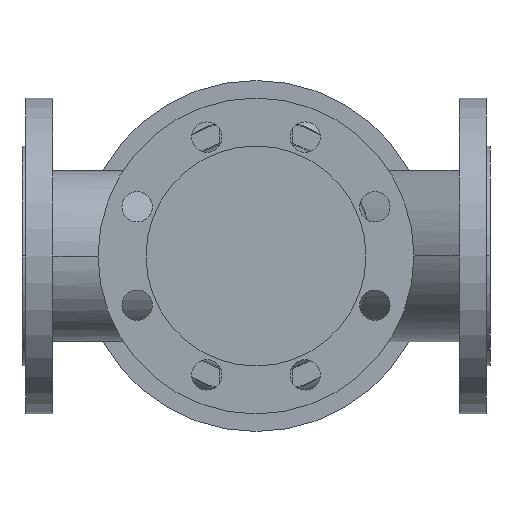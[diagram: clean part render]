
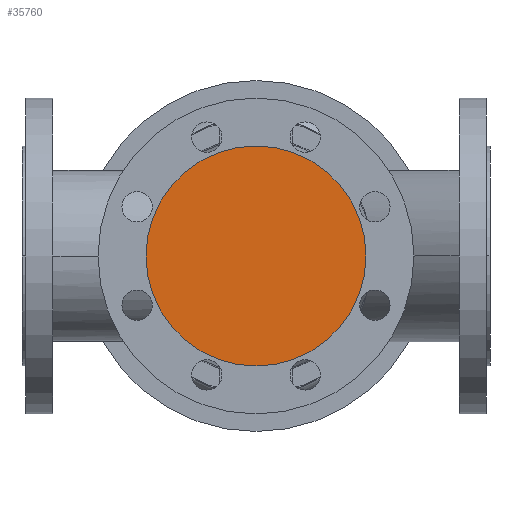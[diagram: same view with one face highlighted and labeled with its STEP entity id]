
A CAD part, front view. The second image highlights one B-rep face of the part: STEP entity #35760.
In plain terms, the highlighted planar face has unit normal (0, -1, 0).
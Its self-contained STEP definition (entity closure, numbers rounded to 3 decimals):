
#5710=CARTESIAN_POINT('',(294.,-200.,0.));
#5720=VERTEX_POINT('',#5710);
#5750=CARTESIAN_POINT('',(200.,-200.,0.));
#5760=DIRECTION('',(0.,1.,0.));
#5770=DIRECTION('',(1.,0.,0.));
#5780=AXIS2_PLACEMENT_3D('',#5750,#5760,#5770);
#5790=CIRCLE('',#5780,94.);
#5800=CARTESIAN_POINT('',(106.,-200.,0.));
#5810=VERTEX_POINT('',#5800);
#5820=EDGE_CURVE('',#5810,#5720,#5790,.T.);
#35660=CARTESIAN_POINT('',(247.,-200.,0.));
#35670=DIRECTION('',(0.,-1.,0.));
#35680=DIRECTION('',(-1.,0.,0.));
#35690=AXIS2_PLACEMENT_3D('',#35660,#35670,#35680);
#35700=PLANE('',#35690);
#35710=ORIENTED_EDGE('',*,*,#5820,.F.);
#35720=EDGE_CURVE('',#5720,#5810,#5790,.T.);
#35730=ORIENTED_EDGE('',*,*,#35720,.F.);
#35740=EDGE_LOOP('',(#35730,#35710));
#35750=FACE_OUTER_BOUND('',#35740,.T.);
#35760=ADVANCED_FACE('',(#35750),#35700,.T.);
